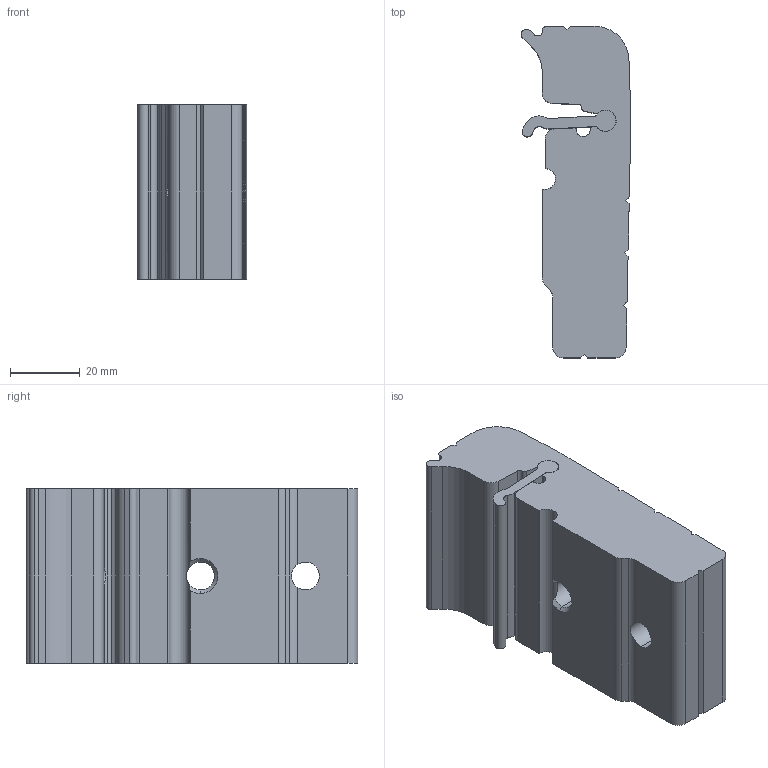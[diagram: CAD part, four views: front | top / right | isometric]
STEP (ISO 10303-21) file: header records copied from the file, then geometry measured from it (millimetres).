
FILE_DESCRIPTION (( 'STEP AP214' ), '1' );
FILE_NAME ('R2 SL32-SL50.step', '2017-04-05T08:05:34', ( '' ), ( '' ), 'SwSTEP 2.0', 'SolidWorks 2015', '' );
FILE_SCHEMA (( 'AUTOMOTIVE_DESIGN' ));
Length unit declared in the file: millimetre
Products named in the file (1): R2 SL32-SL50
Bounding box: 31.33 x 94.82 x 50 mm (x, y, z)
Volume: 107030.8 mm3; surface area: 23260.7 mm2
Topology: 2 solids, 2 shells, 93 faces, 273 edges, 178 vertices
Faces by surface type: plane 46, cylinder 42, cone 5
Entity records: 3234 total; most frequent: CARTESIAN_POINT 697, ORIENTED_EDGE 546, DIRECTION 518, EDGE_CURVE 273, VERTEX_POINT 178, AXIS2_PLACEMENT_3D 177, LINE 164, VECTOR 164
